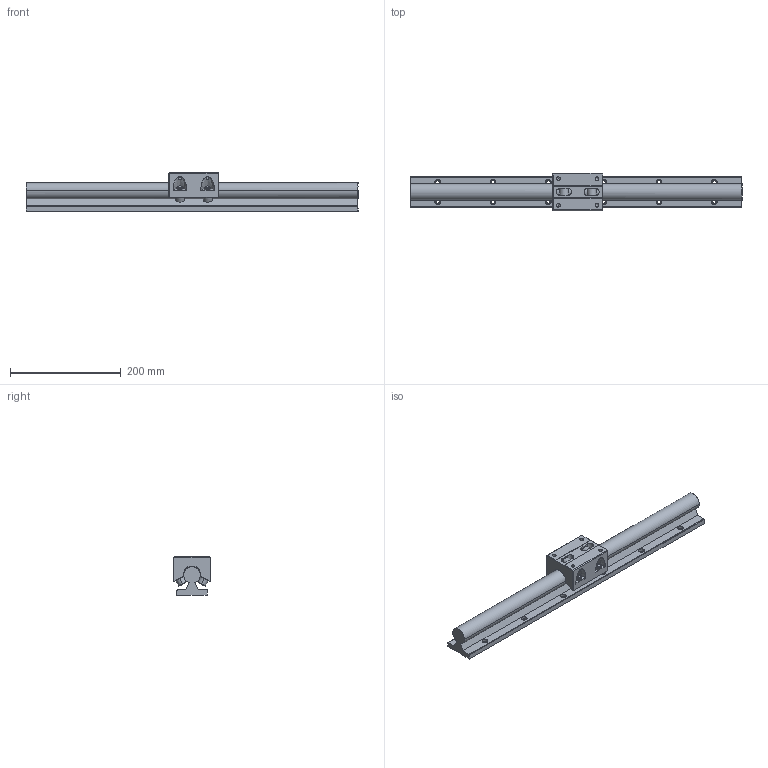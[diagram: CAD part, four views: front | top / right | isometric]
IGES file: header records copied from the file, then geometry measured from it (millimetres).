
Global section: file name: No Iges File Name specified; native system: AutoDesk Inventor R10; preprocessor: AutoDesk Inventor Iges Exporter R10; author: No Author specified; organization: No Organization specified; date: 20101222.160011; units: millimetre
Bounding box: 600 x 68.5 x 70 mm (x, y, z)
Surface area: 174758.3 mm2 (no closed solid volume)
Topology: 0 solids, 0 shells, 290 faces, 2116 edges, 2108 vertices
Faces by surface type: bspline 290
